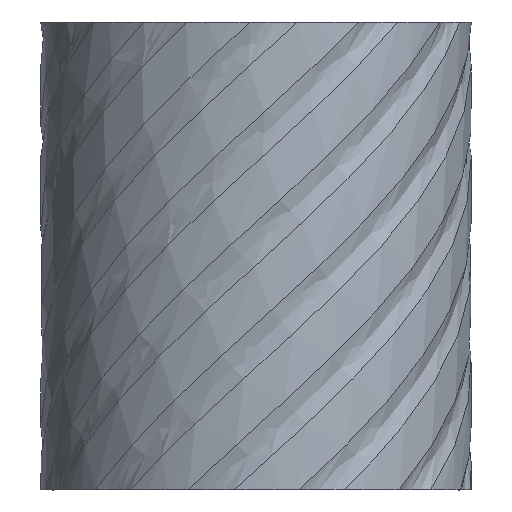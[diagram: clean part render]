
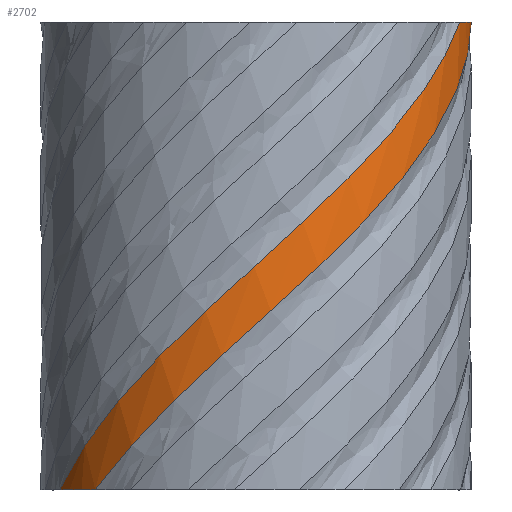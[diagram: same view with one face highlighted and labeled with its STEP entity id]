
A CAD part, top view. The second image highlights one B-rep face of the part: STEP entity #2702.
In plain terms, the highlighted cylindrical face has radius 17.5 mm (diameter 35 mm), a partial arc.
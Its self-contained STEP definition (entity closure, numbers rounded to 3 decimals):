
#37=CARTESIAN_POINT('',(-15.95,0.,7.202));
#59=CARTESIAN_POINT('',(-13.066,0.,11.642));
#424=CARTESIAN_POINT('',(-13.066,0.,11.642));
#425=CARTESIAN_POINT('',(-12.405,0.904,12.384));
#426=CARTESIAN_POINT('',(-10.955,2.713,13.756));
#427=CARTESIAN_POINT('',(-8.464,5.425,15.414));
#428=CARTESIAN_POINT('',(-5.735,8.13,16.624));
#429=CARTESIAN_POINT('',(-2.812,10.861,17.36));
#430=CARTESIAN_POINT('',(0.19,13.589,17.584));
#431=CARTESIAN_POINT('',(3.162,16.294,17.298));
#432=CARTESIAN_POINT('',(6.044,19.001,16.514));
#433=CARTESIAN_POINT('',(8.759,21.715,15.248));
#434=CARTESIAN_POINT('',(11.221,24.431,13.539));
#435=CARTESIAN_POINT('',(13.348,27.133,11.448));
#436=CARTESIAN_POINT('',(15.102,29.855,9.011));
#437=CARTESIAN_POINT('',(16.418,32.585,6.301));
#438=CARTESIAN_POINT('',(17.247,35.292,3.43));
#439=CARTESIAN_POINT('',(17.468,37.098,1.449));
#440=CARTESIAN_POINT('',(17.494,38.,0.458));
#442=CARTESIAN_POINT('',(0.,0.,0.));
#443=DIRECTION('',(0.,-1.,0.));
#444=DIRECTION('',(-0.747,0.,0.665));
#445=AXIS2_PLACEMENT_3D('',#442,#443,#444);
#447=CARTESIAN_POINT('',(-15.95,0.,7.202));
#448=CARTESIAN_POINT('',(-15.54,0.905,8.108));
#449=CARTESIAN_POINT('',(-14.566,2.714,9.852));
#450=CARTESIAN_POINT('',(-12.683,5.429,12.181));
#451=CARTESIAN_POINT('',(-10.432,8.143,14.157));
#452=CARTESIAN_POINT('',(-7.878,10.857,15.722));
#453=CARTESIAN_POINT('',(-5.095,13.572,16.831));
#454=CARTESIAN_POINT('',(-2.164,16.286,17.451));
#455=CARTESIAN_POINT('',(0.829,19.,17.565));
#456=CARTESIAN_POINT('',(3.798,21.715,17.17));
#457=CARTESIAN_POINT('',(6.657,24.429,16.276));
#458=CARTESIAN_POINT('',(9.323,27.143,14.91));
#459=CARTESIAN_POINT('',(11.718,29.858,13.112));
#460=CARTESIAN_POINT('',(13.773,32.572,10.933));
#461=CARTESIAN_POINT('',(15.429,35.286,8.437));
#462=CARTESIAN_POINT('',(16.234,37.095,6.61));
#463=CARTESIAN_POINT('',(16.556,38.,5.669));
#820=CARTESIAN_POINT('',(17.494,38.,0.458));
#832=CARTESIAN_POINT('',(0.,38.,0.));
#833=DIRECTION('',(0.,1.,0.));
#834=DIRECTION('',(0.946,0.,0.324));
#835=AXIS2_PLACEMENT_3D('',#832,#833,#834);
#847=CARTESIAN_POINT('',(16.556,38.,5.669));
#2279=VERTEX_POINT('',#37);
#2282=VERTEX_POINT('',#847);
#2284=VERTEX_POINT('',#59);
#2285=VERTEX_POINT('',#820);
#2688=CARTESIAN_POINT('',(0.,0.,0.));
#2689=DIRECTION('',(0.,1.,0.));
#2690=DIRECTION('',(0.,0.,1.));
#2691=AXIS2_PLACEMENT_3D('',#2688,#2689,#2690);
#2692=CYLINDRICAL_SURFACE('',#2691,17.5);
#2694=ORIENTED_EDGE('',*,*,#2693,.F.);
#2695=ORIENTED_EDGE('',*,*,#2405,.T.);
#2697=ORIENTED_EDGE('',*,*,#2696,.T.);
#2699=ORIENTED_EDGE('',*,*,#2698,.T.);
#2700=EDGE_LOOP('',(#2694,#2695,#2697,#2699));
#2701=FACE_OUTER_BOUND('',#2700,.F.);
#2702=ADVANCED_FACE('',(#2701),#2692,.T.);
#441=B_SPLINE_CURVE_WITH_KNOTS('',3,(#424,#425,#426,#427,#428,#429,#430,#431,
#432,#433,#434,#435,#436,#437,#438,#439,#440),.UNSPECIFIED.,.F.,.F.,(4,1,1,1,1,
1,1,1,1,1,1,1,1,1,4),(0.,0.071,0.143,
0.214,0.286,0.357,0.429,0.5,
0.571,0.643,0.714,0.786,
0.857,0.929,1.),.UNSPECIFIED.);
#446=CIRCLE('',#445,17.5);
#464=B_SPLINE_CURVE_WITH_KNOTS('',3,(#447,#448,#449,#450,#451,#452,#453,#454,
#455,#456,#457,#458,#459,#460,#461,#462,#463),.UNSPECIFIED.,.F.,.F.,(4,1,1,1,1,
1,1,1,1,1,1,1,1,1,4),(0.,0.071,0.143,
0.214,0.286,0.357,0.429,0.5,
0.571,0.643,0.714,0.786,
0.857,0.929,1.),.UNSPECIFIED.);
#836=CIRCLE('',#835,17.5);
#2405=EDGE_CURVE('',#2284,#2279,#446,.T.);
#2693=EDGE_CURVE('',#2284,#2285,#441,.T.);
#2696=EDGE_CURVE('',#2279,#2282,#464,.T.);
#2698=EDGE_CURVE('',#2282,#2285,#836,.T.);
